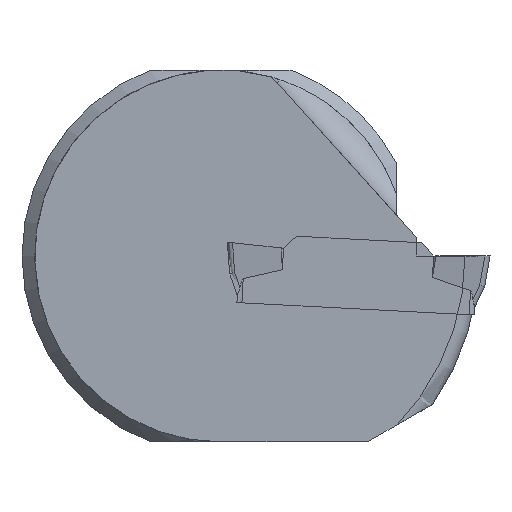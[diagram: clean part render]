
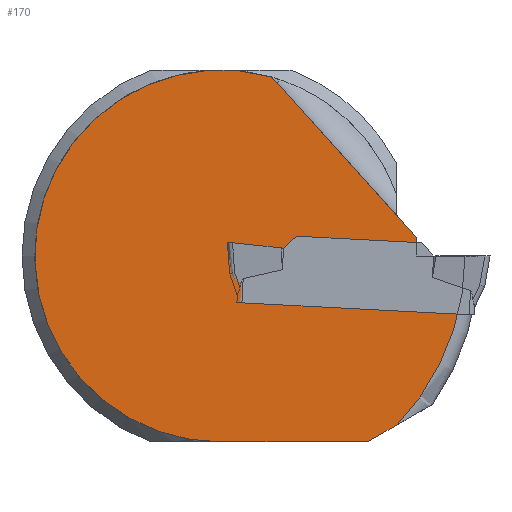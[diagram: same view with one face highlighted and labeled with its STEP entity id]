
A CAD part, left-side view. The second image highlights one B-rep face of the part: STEP entity #170.
In plain terms, the highlighted planar face has unit normal (-1, 0, 0).
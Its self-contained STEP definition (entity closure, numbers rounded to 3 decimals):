
#170=ADVANCED_FACE('',(#264),#231,.T.);
#231=PLANE('',#1201);
#264=FACE_OUTER_BOUND('',#322,.T.);
#322=EDGE_LOOP('',(#577,#578,#579,#580,#581,#582,#583,#584));
#385=LINE('',#1604,#479);
#386=LINE('',#1606,#480);
#387=LINE('',#1610,#481);
#388=LINE('',#1612,#482);
#389=LINE('',#1614,#483);
#479=VECTOR('',#1304,1.);
#480=VECTOR('',#1305,1.);
#481=VECTOR('',#1308,1.);
#482=VECTOR('',#1309,1.);
#483=VECTOR('',#1310,1.);
#577=ORIENTED_EDGE('',*,*,#1003,.T.);
#578=ORIENTED_EDGE('',*,*,#1004,.F.);
#579=ORIENTED_EDGE('',*,*,#1005,.T.);
#580=ORIENTED_EDGE('',*,*,#1006,.F.);
#581=ORIENTED_EDGE('',*,*,#1007,.T.);
#582=ORIENTED_EDGE('',*,*,#1008,.T.);
#583=ORIENTED_EDGE('',*,*,#1009,.T.);
#584=ORIENTED_EDGE('',*,*,#1010,.T.);
#897=VERTEX_POINT('',#1600);
#898=VERTEX_POINT('',#1601);
#899=VERTEX_POINT('',#1603);
#900=VERTEX_POINT('',#1605);
#901=VERTEX_POINT('',#1607);
#902=VERTEX_POINT('',#1609);
#903=VERTEX_POINT('',#1611);
#904=VERTEX_POINT('',#1613);
#1003=EDGE_CURVE('',#897,#898,#1163,.T.);
#1004=EDGE_CURVE('',#899,#898,#1164,.T.);
#1005=EDGE_CURVE('',#899,#900,#385,.T.);
#1006=EDGE_CURVE('',#901,#900,#386,.T.);
#1007=EDGE_CURVE('',#901,#902,#1165,.T.);
#1008=EDGE_CURVE('',#902,#903,#387,.T.);
#1009=EDGE_CURVE('',#903,#904,#388,.T.);
#1010=EDGE_CURVE('',#904,#897,#389,.T.);
#1163=CIRCLE('',#1198,3.);
#1164=CIRCLE('',#1199,14.85);
#1165=CIRCLE('',#1200,19.5);
#1198=AXIS2_PLACEMENT_3D('',#1599,#1300,#1301);
#1199=AXIS2_PLACEMENT_3D('',#1602,#1302,#1303);
#1200=AXIS2_PLACEMENT_3D('',#1608,#1306,#1307);
#1201=AXIS2_PLACEMENT_3D('',#1615,#1311,#1312);
#1300=DIRECTION('',(-1.,0.,0.));
#1301=DIRECTION('',(0.,-1.,0.));
#1302=DIRECTION('',(1.,0.,0.));
#1303=DIRECTION('',(0.,0.,1.));
#1304=DIRECTION('',(0.,-1.,0.));
#1305=DIRECTION('',(0.,0.866,-0.5));
#1306=DIRECTION('',(-1.,0.,0.));
#1307=DIRECTION('',(0.,0.,1.));
#1308=DIRECTION('',(0.,1.,0.));
#1309=DIRECTION('',(0.,0.,1.));
#1310=DIRECTION('',(0.,0.669,0.743));
#1311=DIRECTION('',(-1.,0.,0.));
#1312=DIRECTION('',(0.,0.,1.));
#1599=CARTESIAN_POINT('',(0.35,19.248,11.85));
#1600=CARTESIAN_POINT('',(0.35,17.019,13.857));
#1601=CARTESIAN_POINT('',(0.35,17.531,14.31));
#1602=CARTESIAN_POINT('',(0.35,21.5,0.));
#1603=CARTESIAN_POINT('',(0.35,21.5,-14.85));
#1604=CARTESIAN_POINT('',(0.35,0.85,-14.85));
#1605=CARTESIAN_POINT('',(0.35,9.785,-14.85));
#1606=CARTESIAN_POINT('',(0.35,-3.347,-7.269));
#1607=CARTESIAN_POINT('',(0.35,7.407,-13.477));
#1608=CARTESIAN_POINT('',(0.35,21.5,0.));
#1609=CARTESIAN_POINT('',(0.35,2.,0.));
#1610=CARTESIAN_POINT('',(0.35,0.,0.));
#1611=CARTESIAN_POINT('',(0.35,5.862,0.));
#1612=CARTESIAN_POINT('',(0.35,5.862,0.967));
#1613=CARTESIAN_POINT('',(0.35,5.862,1.467));
#1614=CARTESIAN_POINT('',(0.35,5.862,1.467));
#1615=CARTESIAN_POINT('',(0.35,0.85,0.));
